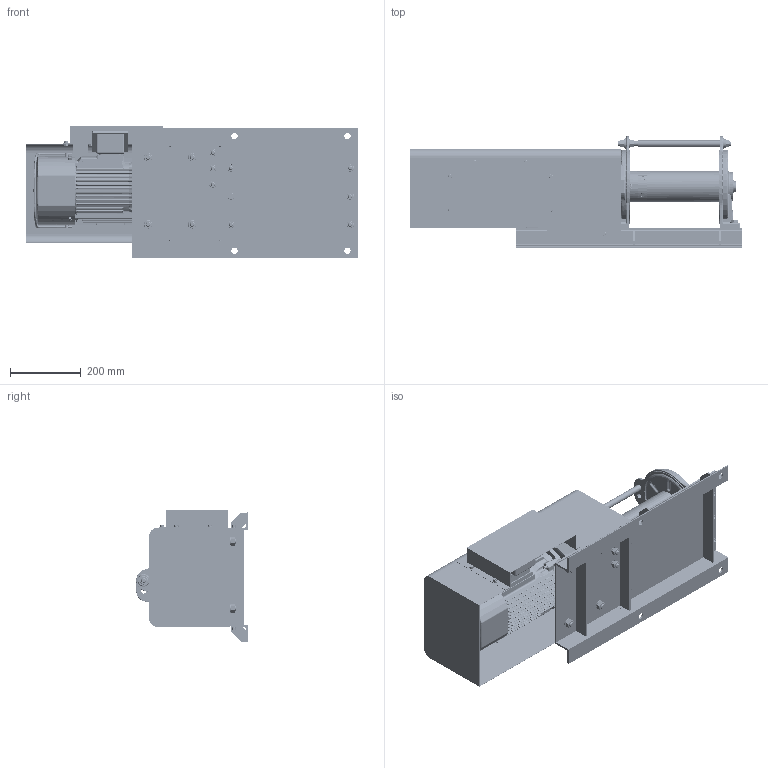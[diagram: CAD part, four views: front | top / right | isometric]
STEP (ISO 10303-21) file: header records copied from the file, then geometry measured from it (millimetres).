
FILE_DESCRIPTION( (''), '2;1');
FILE_NAME ('GME-1300-NP.stp','2023-08-03T10:27:47',(''),(''),'spGate 19.8.2 (****-****-****-****)','','');
FILE_SCHEMA (('AUTOMOTIVE_DESIGN'));
Length unit declared in the file: millimetre
Products named in the file (2): Assembly; GME-1300-NP-prt0
Assembly tree (1 placements, depth 2):
  Assembly
    GME-1300-NP-prt0
Bounding box: 940.5 x 316 x 376 mm (x, y, z)
Volume: 20054464 mm3; surface area: 3184506 mm2
Topology: 1 solids, 1 shells, 5090 faces, 13278 edges, 8086 vertices
Faces by surface type: bspline 1868, plane 1637, cylinder 1483, sphere 102
Entity records: 398154 total; most frequent: CARTESIAN_POINT 189191, ORIENTED_EDGE 25892, DIRECTION 18261, COLOUR_RGB 18037, PRESENTATION_STYLE_ASSIGNMENT 18037, STYLED_ITEM 18037, EDGE_CURVE 12946, DRAUGHTING_PRE_DEFINED_CURVE_FONT 12946
